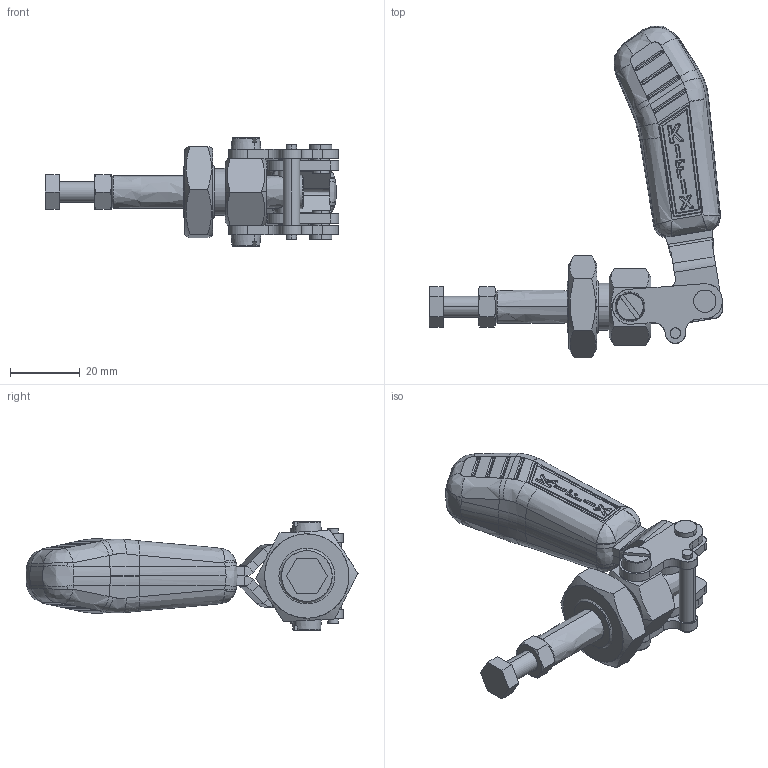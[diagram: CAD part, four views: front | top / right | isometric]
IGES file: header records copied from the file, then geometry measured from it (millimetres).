
Start section: SolidWorks IGES file using analytic representation for surfaces
Global section: file name: C:\Projetos\Grampos\KF-005\KF 005\KF-005.IGS; native system: SolidWorks 2013; preprocessor: SolidWorks 2013; author: Ricardo; date: 140826.142813; units: millimetre
Bounding box: 83.96 x 95.05 x 30.95 mm (x, y, z)
Surface area: 23406.5 mm2 (no closed solid volume)
Topology: 0 solids, 0 shells, 892 faces, 9599 edges, 9539 vertices
Faces by surface type: bspline 520, revolution 372
